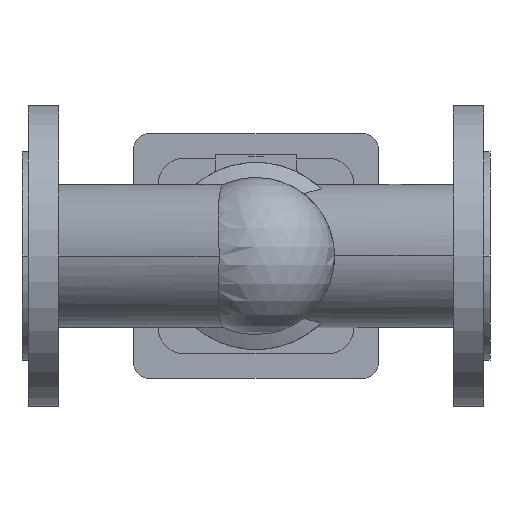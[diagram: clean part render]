
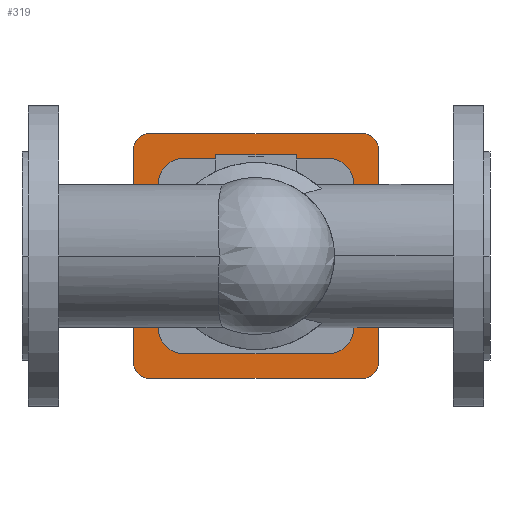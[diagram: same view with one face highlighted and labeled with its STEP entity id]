
A CAD part, front view. The second image highlights one B-rep face of the part: STEP entity #319.
In plain terms, the highlighted planar face has unit normal (0, -1, 0).
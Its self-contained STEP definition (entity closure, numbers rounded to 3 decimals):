
#319 = ADVANCED_FACE( '', ( #793, #794 ), #795, .F. );
#793 = FACE_OUTER_BOUND( '', #1293, .T. );
#794 = FACE_BOUND( '', #1294, .T. );
#795 = PLANE( '', #1295 );
#1293 = EDGE_LOOP( '', ( #2908, #2909, #2910, #2911, #2912, #2913, #2914, #2915 ) );
#1294 = EDGE_LOOP( '', ( #2916, #2917 ) );
#1295 = AXIS2_PLACEMENT_3D( '', #2918, #2919, #2920 );
#2908 = ORIENTED_EDGE( '', *, *, #3587, .F. );
#2909 = ORIENTED_EDGE( '', *, *, #3588, .F. );
#2910 = ORIENTED_EDGE( '', *, *, #3589, .F. );
#2911 = ORIENTED_EDGE( '', *, *, #3590, .F. );
#2912 = ORIENTED_EDGE( '', *, *, #3591, .F. );
#2913 = ORIENTED_EDGE( '', *, *, #3592, .F. );
#2914 = ORIENTED_EDGE( '', *, *, #3593, .F. );
#2915 = ORIENTED_EDGE( '', *, *, #3594, .F. );
#2916 = ORIENTED_EDGE( '', *, *, #3502, .F. );
#2917 = ORIENTED_EDGE( '', *, *, #3595, .F. );
#2918 = CARTESIAN_POINT( '', ( 155., 679.7, 0. ) );
#2919 = DIRECTION( '', ( 0., 1., 0. ) );
#2920 = DIRECTION( '', ( 0., 0., 1. ) );
#3502 = EDGE_CURVE( '', #4327, #4330, #4331, .T. );
#3587 = EDGE_CURVE( '', #4474, #4475, #4476, .T. );
#3588 = EDGE_CURVE( '', #4477, #4474, #4478, .T. );
#3589 = EDGE_CURVE( '', #4479, #4477, #4480, .T. );
#3590 = EDGE_CURVE( '', #4481, #4479, #4482, .T. );
#3591 = EDGE_CURVE( '', #4483, #4481, #4484, .T. );
#3592 = EDGE_CURVE( '', #4485, #4483, #4486, .T. );
#3593 = EDGE_CURVE( '', #4487, #4485, #4488, .T. );
#3594 = EDGE_CURVE( '', #4475, #4487, #4489, .T. );
#3595 = EDGE_CURVE( '', #4330, #4327, #4490, .T. );
#4327 = VERTEX_POINT( '', #5968 );
#4330 = VERTEX_POINT( '', #5972 );
#4331 = CIRCLE( '', #5973, 40. );
#4474 = VERTEX_POINT( '', #6171 );
#4475 = VERTEX_POINT( '', #6172 );
#4476 = CIRCLE( '', #6173, 10. );
#4477 = VERTEX_POINT( '', #6174 );
#4478 = LINE( '', #6175, #6176 );
#4479 = VERTEX_POINT( '', #6177 );
#4480 = CIRCLE( '', #6178, 10. );
#4481 = VERTEX_POINT( '', #6179 );
#4482 = LINE( '', #6180, #6181 );
#4483 = VERTEX_POINT( '', #6182 );
#4484 = CIRCLE( '', #6183, 10. );
#4485 = VERTEX_POINT( '', #6184 );
#4486 = LINE( '', #6185, #6186 );
#4487 = VERTEX_POINT( '', #6187 );
#4488 = CIRCLE( '', #6188, 10. );
#4489 = LINE( '', #6189, #6190 );
#4490 = CIRCLE( '', #6191, 40. );
#5968 = CARTESIAN_POINT( '', ( 115., 679.7, 0. ) );
#5972 = CARTESIAN_POINT( '', ( 195., 679.7, 0. ) );
#5973 = AXIS2_PLACEMENT_3D( '', #7040, #7041, #7042 );
#6171 = CARTESIAN_POINT( '', ( 74., 679.7, 71. ) );
#6172 = CARTESIAN_POINT( '', ( 84., 679.7, 81. ) );
#6173 = AXIS2_PLACEMENT_3D( '', #7185, #7186, #7187 );
#6174 = CARTESIAN_POINT( '', ( 74., 679.7, -71. ) );
#6175 = CARTESIAN_POINT( '', ( 74., 679.7, -71. ) );
#6176 = VECTOR( '', #7188, 1. );
#6177 = CARTESIAN_POINT( '', ( 84., 679.7, -81. ) );
#6178 = AXIS2_PLACEMENT_3D( '', #7189, #7190, #7191 );
#6179 = CARTESIAN_POINT( '', ( 226., 679.7, -81. ) );
#6180 = CARTESIAN_POINT( '', ( 226., 679.7, -81. ) );
#6181 = VECTOR( '', #7192, 1. );
#6182 = CARTESIAN_POINT( '', ( 236., 679.7, -71. ) );
#6183 = AXIS2_PLACEMENT_3D( '', #7193, #7194, #7195 );
#6184 = CARTESIAN_POINT( '', ( 236., 679.7, 71. ) );
#6185 = CARTESIAN_POINT( '', ( 236., 679.7, 71. ) );
#6186 = VECTOR( '', #7196, 1. );
#6187 = CARTESIAN_POINT( '', ( 226., 679.7, 81. ) );
#6188 = AXIS2_PLACEMENT_3D( '', #7197, #7198, #7199 );
#6189 = CARTESIAN_POINT( '', ( 84., 679.7, 81. ) );
#6190 = VECTOR( '', #7200, 1. );
#6191 = AXIS2_PLACEMENT_3D( '', #7201, #7202, #7203 );
#7040 = CARTESIAN_POINT( '', ( 155., 679.7, 0. ) );
#7041 = DIRECTION( '', ( 0., -1., 0. ) );
#7042 = DIRECTION( '', ( -1., 0., 0. ) );
#7185 = CARTESIAN_POINT( '', ( 84., 679.7, 71. ) );
#7186 = DIRECTION( '', ( 0., 1., 0. ) );
#7187 = DIRECTION( '', ( -1., 0., 0. ) );
#7188 = DIRECTION( '', ( 0., 0., 1. ) );
#7189 = CARTESIAN_POINT( '', ( 84., 679.7, -71. ) );
#7190 = DIRECTION( '', ( 0., 1., 0. ) );
#7191 = DIRECTION( '', ( 0., 0., -1. ) );
#7192 = DIRECTION( '', ( -1., 0., 0. ) );
#7193 = CARTESIAN_POINT( '', ( 226., 679.7, -71. ) );
#7194 = DIRECTION( '', ( 0., 1., 0. ) );
#7195 = DIRECTION( '', ( 1., 0., 0. ) );
#7196 = DIRECTION( '', ( 0., 0., -1. ) );
#7197 = CARTESIAN_POINT( '', ( 226., 679.7, 71. ) );
#7198 = DIRECTION( '', ( 0., 1., 0. ) );
#7199 = DIRECTION( '', ( 0., 0., 1. ) );
#7200 = DIRECTION( '', ( 1., 0., 0. ) );
#7201 = CARTESIAN_POINT( '', ( 155., 679.7, 0. ) );
#7202 = DIRECTION( '', ( 0., -1., 0. ) );
#7203 = DIRECTION( '', ( -1., 0., 0. ) );
